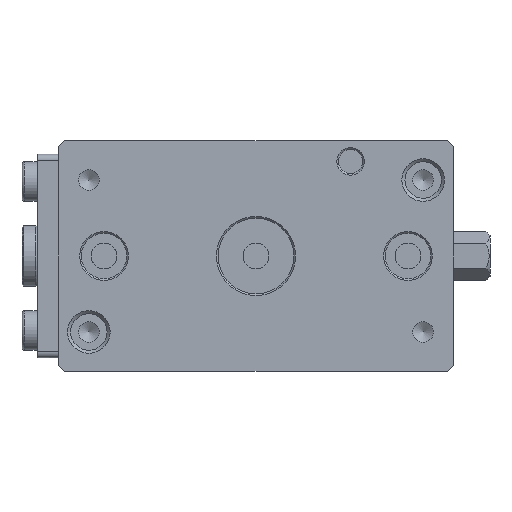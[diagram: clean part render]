
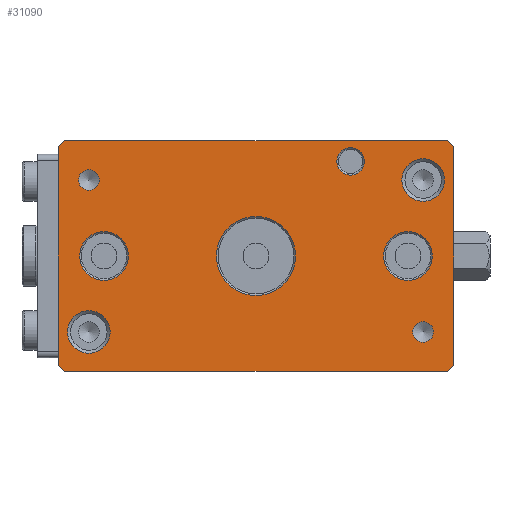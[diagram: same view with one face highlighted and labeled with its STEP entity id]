
A CAD part, front view. The second image highlights one B-rep face of the part: STEP entity #31090.
In plain terms, the highlighted planar face has unit normal (0, -1, 0).
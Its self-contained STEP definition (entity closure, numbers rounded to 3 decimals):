
#664 = DIRECTION ( 'NONE',  ( 0., 1., 0. ) ) ;
#924 = VECTOR ( 'NONE', #31494, 1000. ) ;
#1755 = CARTESIAN_POINT ( 'NONE',  ( -63., -56., -38. ) ) ;
#2953 = EDGE_CURVE ( 'NONE', #23372, #23372, #19372, .T. ) ;
#3752 = EDGE_CURVE ( 'NONE', #18147, #18147, #53967, .T. ) ;
#3949 = DIRECTION ( 'NONE',  ( 0., -1., 0. ) ) ;
#3968 = EDGE_LOOP ( 'NONE', ( #18538 ) ) ;
#3979 = ORIENTED_EDGE ( 'NONE', *, *, #5080, .T. ) ;
#4172 = ORIENTED_EDGE ( 'NONE', *, *, #18245, .F. ) ;
#4945 = DIRECTION ( 'NONE',  ( 0., 0., 1. ) ) ;
#5080 = EDGE_CURVE ( 'NONE', #53517, #53517, #23661, .T. ) ;
#5177 = DIRECTION ( 'NONE',  ( 0., 0., -1. ) ) ;
#5508 = CARTESIAN_POINT ( 'NONE',  ( 31.113, -56., 31.113 ) ) ;
#5586 = ORIENTED_EDGE ( 'NONE', *, *, #57806, .T. ) ;
#6429 = ORIENTED_EDGE ( 'NONE', *, *, #2953, .F. ) ;
#6492 = CARTESIAN_POINT ( 'NONE',  ( -63., -56., -38. ) ) ;
#6703 = ORIENTED_EDGE ( 'NONE', *, *, #40796, .T. ) ;
#6715 = CARTESIAN_POINT ( 'NONE',  ( 55., -56., 25. ) ) ;
#7652 = PLANE ( 'NONE',  #33796 ) ;
#7928 = LINE ( 'NONE', #32483, #19748 ) ;
#8313 = FACE_BOUND ( 'NONE', #61104, .T. ) ;
#9556 = CARTESIAN_POINT ( 'NONE',  ( 0., -56., 0. ) ) ;
#9975 = AXIS2_PLACEMENT_3D ( 'NONE', #59294, #3949, #14429 ) ;
#10062 = LINE ( 'NONE', #15292, #20843 ) ;
#10872 = ORIENTED_EDGE ( 'NONE', *, *, #36173, .T. ) ;
#12048 = VERTEX_POINT ( 'NONE', #37604 ) ;
#12896 = FACE_BOUND ( 'NONE', #32505, .T. ) ;
#13516 = CARTESIAN_POINT ( 'NONE',  ( -63., -56., 38. ) ) ;
#14227 = CARTESIAN_POINT ( 'NONE',  ( 50., -56., 8. ) ) ;
#14429 = DIRECTION ( 'NONE',  ( 0., 0., -1. ) ) ;
#14540 = CARTESIAN_POINT ( 'NONE',  ( 55., -56., 32. ) ) ;
#14874 = EDGE_LOOP ( 'NONE', ( #33374 ) ) ;
#15292 = CARTESIAN_POINT ( 'NONE',  ( 65., -56., -38. ) ) ;
#16823 = EDGE_CURVE ( 'NONE', #31885, #64803, #33163, .T. ) ;
#17396 = ORIENTED_EDGE ( 'NONE', *, *, #18072, .F. ) ;
#17487 = FACE_OUTER_BOUND ( 'NONE', #54135, .T. ) ;
#17533 = DIRECTION ( 'NONE',  ( 0., 1., 0. ) ) ;
#17748 = VERTEX_POINT ( 'NONE', #1755 ) ;
#18072 = EDGE_CURVE ( 'NONE', #33224, #33224, #61630, .T. ) ;
#18147 = VERTEX_POINT ( 'NONE', #38794 ) ;
#18245 = EDGE_CURVE ( 'NONE', #63471, #17748, #10062, .T. ) ;
#18538 = ORIENTED_EDGE ( 'NONE', *, *, #35131, .T. ) ;
#18672 = VECTOR ( 'NONE', #31922, 1000. ) ;
#19372 = CIRCLE ( 'NONE', #9975, 3.4 ) ;
#19748 = VECTOR ( 'NONE', #51493, 1000. ) ;
#20109 = CIRCLE ( 'NONE', #45212, 7. ) ;
#20133 = DIRECTION ( 'NONE',  ( -1., 0., 0. ) ) ;
#20843 = VECTOR ( 'NONE', #44766, 1000. ) ;
#22709 = DIRECTION ( 'NONE',  ( 0., 1., 0. ) ) ;
#23034 = DIRECTION ( 'NONE',  ( 0., 0., 1. ) ) ;
#23082 = CARTESIAN_POINT ( 'NONE',  ( 50., -56., 0. ) ) ;
#23372 = VERTEX_POINT ( 'NONE', #62387 ) ;
#23388 = ORIENTED_EDGE ( 'NONE', *, *, #44208, .T. ) ;
#23545 = CARTESIAN_POINT ( 'NONE',  ( 63., -56., 38. ) ) ;
#23661 = CIRCLE ( 'NONE', #28897, 8. ) ;
#23995 = EDGE_LOOP ( 'NONE', ( #23388 ) ) ;
#24067 = EDGE_LOOP ( 'NONE', ( #6703 ) ) ;
#24356 = DIRECTION ( 'NONE',  ( 0., 1., 0. ) ) ;
#24559 = VECTOR ( 'NONE', #37271, 1000. ) ;
#24671 = VERTEX_POINT ( 'NONE', #59406 ) ;
#24852 = VERTEX_POINT ( 'NONE', #23545 ) ;
#24985 = VERTEX_POINT ( 'NONE', #44979 ) ;
#26160 = VECTOR ( 'NONE', #59028, 1000. ) ;
#26346 = CARTESIAN_POINT ( 'NONE',  ( -65., -56., 38. ) ) ;
#26774 = EDGE_LOOP ( 'NONE', ( #6429 ) ) ;
#27091 = AXIS2_PLACEMENT_3D ( 'NONE', #52024, #51050, #37292 ) ;
#28261 = FACE_BOUND ( 'NONE', #26774, .T. ) ;
#28299 = EDGE_LOOP ( 'NONE', ( #3979 ) ) ;
#28897 = AXIS2_PLACEMENT_3D ( 'NONE', #62736, #64038, #53223 ) ;
#30044 = LINE ( 'NONE', #26346, #32676 ) ;
#30259 = LINE ( 'NONE', #35204, #33905 ) ;
#31090 = ADVANCED_FACE ( 'NONE', ( #63337, #38110, #53171, #57748, #62036, #12896, #8313, #28261, #17487 ), #7652, .F. ) ;
#31494 = DIRECTION ( 'NONE',  ( -0.707, 0., 0.707 ) ) ;
#31885 = VERTEX_POINT ( 'NONE', #36511 ) ;
#31922 = DIRECTION ( 'NONE',  ( 0., 0., -1. ) ) ;
#31925 = CARTESIAN_POINT ( 'NONE',  ( -65., -56., 36. ) ) ;
#32483 = CARTESIAN_POINT ( 'NONE',  ( 65., -56., -36. ) ) ;
#32505 = EDGE_LOOP ( 'NONE', ( #58432 ) ) ;
#32676 = VECTOR ( 'NONE', #5177, 1000. ) ;
#32837 = CIRCLE ( 'NONE', #52755, 13. ) ;
#32877 = AXIS2_PLACEMENT_3D ( 'NONE', #35167, #24356, #64662 ) ;
#33163 = LINE ( 'NONE', #13516, #26160 ) ;
#33224 = VERTEX_POINT ( 'NONE', #63363 ) ;
#33374 = ORIENTED_EDGE ( 'NONE', *, *, #3752, .T. ) ;
#33796 = AXIS2_PLACEMENT_3D ( 'NONE', #46958, #22709, #23034 ) ;
#33905 = VECTOR ( 'NONE', #20133, 1000. ) ;
#34071 = ORIENTED_EDGE ( 'NONE', *, *, #47385, .T. ) ;
#34691 = DIRECTION ( 'NONE',  ( 0., 0., 1. ) ) ;
#35131 = EDGE_CURVE ( 'NONE', #24671, #24671, #32837, .T. ) ;
#35159 = VERTEX_POINT ( 'NONE', #14227 ) ;
#35167 = CARTESIAN_POINT ( 'NONE',  ( -55., -56., -25. ) ) ;
#35204 = CARTESIAN_POINT ( 'NONE',  ( 65., -56., 38. ) ) ;
#35247 = ORIENTED_EDGE ( 'NONE', *, *, #16823, .T. ) ;
#35697 = CARTESIAN_POINT ( 'NONE',  ( 63., -56., -38. ) ) ;
#35927 = EDGE_CURVE ( 'NONE', #24985, #24985, #61130, .T. ) ;
#35967 = DIRECTION ( 'NONE',  ( 0., 1., 0. ) ) ;
#36173 = EDGE_CURVE ( 'NONE', #12048, #17748, #50379, .T. ) ;
#36511 = CARTESIAN_POINT ( 'NONE',  ( -63., -56., 38. ) ) ;
#36739 = VERTEX_POINT ( 'NONE', #60931 ) ;
#37271 = DIRECTION ( 'NONE',  ( 0.707, 0., -0.707 ) ) ;
#37292 = DIRECTION ( 'NONE',  ( 0., 0., -1. ) ) ;
#37604 = CARTESIAN_POINT ( 'NONE',  ( -65., -56., -36. ) ) ;
#38110 = FACE_BOUND ( 'NONE', #23995, .T. ) ;
#38134 = DIRECTION ( 'NONE',  ( 0., 1., 0. ) ) ;
#38794 = CARTESIAN_POINT ( 'NONE',  ( 31.113, -56., 35.613 ) ) ;
#38848 = CARTESIAN_POINT ( 'NONE',  ( 65., -56., 36. ) ) ;
#40711 = EDGE_CURVE ( 'NONE', #64803, #12048, #30044, .T. ) ;
#40796 = EDGE_CURVE ( 'NONE', #54492, #54492, #20109, .T. ) ;
#42425 = DIRECTION ( 'NONE',  ( 0., 0., 1. ) ) ;
#42632 = AXIS2_PLACEMENT_3D ( 'NONE', #23082, #17533, #42425 ) ;
#43573 = ORIENTED_EDGE ( 'NONE', *, *, #46653, .F. ) ;
#44208 = EDGE_CURVE ( 'NONE', #35159, #35159, #56227, .T. ) ;
#44508 = AXIS2_PLACEMENT_3D ( 'NONE', #5508, #35967, #34691 ) ;
#44766 = DIRECTION ( 'NONE',  ( -1., 0., 0. ) ) ;
#44979 = CARTESIAN_POINT ( 'NONE',  ( -55., -56., -18. ) ) ;
#45212 = AXIS2_PLACEMENT_3D ( 'NONE', #6715, #38134, #61740 ) ;
#45915 = CARTESIAN_POINT ( 'NONE',  ( 65., -56., 36. ) ) ;
#46653 = EDGE_CURVE ( 'NONE', #51852, #36739, #47627, .T. ) ;
#46958 = CARTESIAN_POINT ( 'NONE',  ( 65., -56., 38. ) ) ;
#47304 = CARTESIAN_POINT ( 'NONE',  ( -50., -56., 8. ) ) ;
#47385 = EDGE_CURVE ( 'NONE', #63471, #36739, #7928, .T. ) ;
#47627 = LINE ( 'NONE', #62703, #18672 ) ;
#50379 = LINE ( 'NONE', #6492, #24559 ) ;
#51050 = DIRECTION ( 'NONE',  ( 0., -1., 0. ) ) ;
#51317 = EDGE_CURVE ( 'NONE', #51852, #24852, #56385, .T. ) ;
#51493 = DIRECTION ( 'NONE',  ( 0.707, 0., 0.707 ) ) ;
#51852 = VERTEX_POINT ( 'NONE', #38848 ) ;
#52024 = CARTESIAN_POINT ( 'NONE',  ( 55., -56., -25. ) ) ;
#52755 = AXIS2_PLACEMENT_3D ( 'NONE', #9556, #664, #4945 ) ;
#53171 = FACE_BOUND ( 'NONE', #3968, .T. ) ;
#53223 = DIRECTION ( 'NONE',  ( 0., 0., 1. ) ) ;
#53517 = VERTEX_POINT ( 'NONE', #47304 ) ;
#53967 = CIRCLE ( 'NONE', #44508, 4.5 ) ;
#54135 = EDGE_LOOP ( 'NONE', ( #64032, #10872, #4172, #34071, #43573, #58761, #5586, #35247 ) ) ;
#54492 = VERTEX_POINT ( 'NONE', #14540 ) ;
#56227 = CIRCLE ( 'NONE', #42632, 8. ) ;
#56385 = LINE ( 'NONE', #45915, #924 ) ;
#57748 = FACE_BOUND ( 'NONE', #28299, .T. ) ;
#57806 = EDGE_CURVE ( 'NONE', #24852, #31885, #30259, .T. ) ;
#58432 = ORIENTED_EDGE ( 'NONE', *, *, #35927, .T. ) ;
#58761 = ORIENTED_EDGE ( 'NONE', *, *, #51317, .T. ) ;
#59028 = DIRECTION ( 'NONE',  ( -0.707, 0., -0.707 ) ) ;
#59294 = CARTESIAN_POINT ( 'NONE',  ( -55., -56., 25. ) ) ;
#59406 = CARTESIAN_POINT ( 'NONE',  ( 0., -56., 13. ) ) ;
#60931 = CARTESIAN_POINT ( 'NONE',  ( 65., -56., -36. ) ) ;
#61104 = EDGE_LOOP ( 'NONE', ( #17396 ) ) ;
#61130 = CIRCLE ( 'NONE', #32877, 7. ) ;
#61630 = CIRCLE ( 'NONE', #27091, 3.4 ) ;
#61740 = DIRECTION ( 'NONE',  ( 0., 0., 1. ) ) ;
#62036 = FACE_BOUND ( 'NONE', #24067, .T. ) ;
#62387 = CARTESIAN_POINT ( 'NONE',  ( -55., -56., 21.6 ) ) ;
#62703 = CARTESIAN_POINT ( 'NONE',  ( 65., -56., 38. ) ) ;
#62736 = CARTESIAN_POINT ( 'NONE',  ( -50., -56., 0. ) ) ;
#63337 = FACE_BOUND ( 'NONE', #14874, .T. ) ;
#63363 = CARTESIAN_POINT ( 'NONE',  ( 55., -56., -28.4 ) ) ;
#63471 = VERTEX_POINT ( 'NONE', #35697 ) ;
#64032 = ORIENTED_EDGE ( 'NONE', *, *, #40711, .T. ) ;
#64038 = DIRECTION ( 'NONE',  ( 0., 1., 0. ) ) ;
#64662 = DIRECTION ( 'NONE',  ( 0., 0., 1. ) ) ;
#64803 = VERTEX_POINT ( 'NONE', #31925 ) ;
